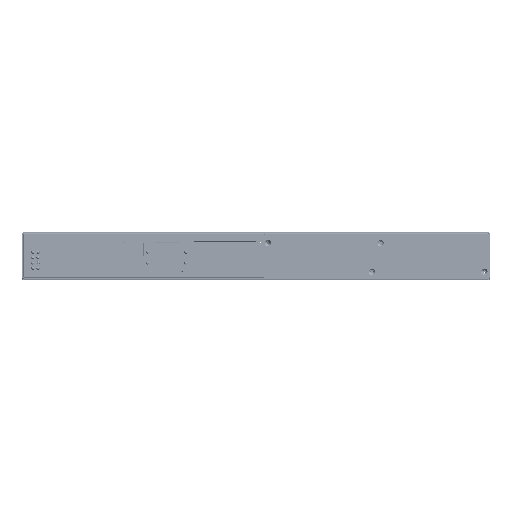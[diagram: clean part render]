
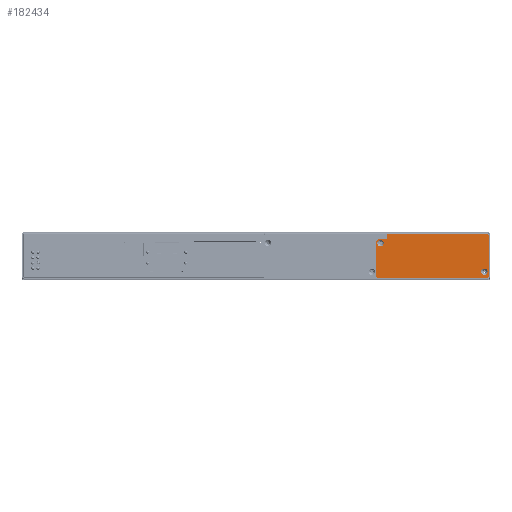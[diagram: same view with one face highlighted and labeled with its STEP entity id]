
A CAD part, top view. The second image highlights one B-rep face of the part: STEP entity #182434.
In plain terms, the highlighted planar face has unit normal (0, 0, 1).
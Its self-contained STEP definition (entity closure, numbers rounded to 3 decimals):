
#182071=DIRECTION('',(0.,1.,0.));
#182072=VECTOR('',#182071,37.8);
#182073=CARTESIAN_POINT('',(218.8,2.,138.8));
#182074=LINE('',#182073,#182072);
#182075=CARTESIAN_POINT('',(216.8,2.,138.8));
#182076=DIRECTION('',(0.,0.,1.));
#182077=DIRECTION('',(0.,-1.,0.));
#182078=AXIS2_PLACEMENT_3D('',#182075,#182076,#182077);
#182080=DIRECTION('',(1.,0.,0.));
#182081=VECTOR('',#182080,101.6);
#182082=CARTESIAN_POINT('',(115.2,0.,138.8));
#182083=LINE('',#182082,#182081);
#182084=CARTESIAN_POINT('',(115.2,2.,138.8));
#182085=DIRECTION('',(0.,0.,1.));
#182086=DIRECTION('',(-1.,0.,0.));
#182087=AXIS2_PLACEMENT_3D('',#182084,#182085,#182086);
#182089=DIRECTION('',(0.,-1.,0.));
#182090=VECTOR('',#182089,32.3);
#182091=CARTESIAN_POINT('',(113.2,34.3,138.8));
#182092=LINE('',#182091,#182090);
#182093=CARTESIAN_POINT('',(115.2,34.3,138.8));
#182094=DIRECTION('',(0.,0.,1.));
#182095=DIRECTION('',(0.,1.,0.));
#182096=AXIS2_PLACEMENT_3D('',#182093,#182094,#182095);
#182098=DIRECTION('',(-1.,0.,0.));
#182099=VECTOR('',#182098,8.);
#182100=CARTESIAN_POINT('',(123.2,36.3,138.8));
#182101=LINE('',#182100,#182099);
#182102=DIRECTION('',(0.,-1.,0.));
#182103=VECTOR('',#182102,3.5);
#182104=CARTESIAN_POINT('',(123.2,39.8,138.8));
#182105=LINE('',#182104,#182103);
#182106=CARTESIAN_POINT('',(125.2,39.8,138.8));
#182107=DIRECTION('',(0.,0.,1.));
#182108=DIRECTION('',(0.,1.,0.));
#182109=AXIS2_PLACEMENT_3D('',#182106,#182107,#182108);
#182111=DIRECTION('',(-1.,0.,0.));
#182112=VECTOR('',#182111,91.6);
#182113=CARTESIAN_POINT('',(216.8,41.8,138.8));
#182114=LINE('',#182113,#182112);
#182115=CARTESIAN_POINT('',(216.8,39.8,138.8));
#182116=DIRECTION('',(0.,0.,1.));
#182117=DIRECTION('',(1.,0.,0.));
#182118=AXIS2_PLACEMENT_3D('',#182115,#182116,#182117);
#182120=CARTESIAN_POINT('',(214.8,6.,138.8));
#182121=DIRECTION('',(0.,0.,-1.));
#182122=DIRECTION('',(1.,0.,0.));
#182123=AXIS2_PLACEMENT_3D('',#182120,#182121,#182122);
#182125=CARTESIAN_POINT('',(214.8,6.,138.8));
#182126=DIRECTION('',(0.,0.,-1.));
#182127=DIRECTION('',(0.,1.,0.));
#182128=AXIS2_PLACEMENT_3D('',#182125,#182126,#182127);
#182130=CARTESIAN_POINT('',(214.8,6.,138.8));
#182131=DIRECTION('',(0.,0.,-1.));
#182132=DIRECTION('',(-1.,0.,0.));
#182133=AXIS2_PLACEMENT_3D('',#182130,#182131,#182132);
#182135=CARTESIAN_POINT('',(214.8,6.,138.8));
#182136=DIRECTION('',(0.,0.,-1.));
#182137=DIRECTION('',(0.,-1.,0.));
#182138=AXIS2_PLACEMENT_3D('',#182135,#182136,#182137);
#182140=CARTESIAN_POINT('',(117.2,32.8,138.8));
#182141=DIRECTION('',(0.,0.,-1.));
#182142=DIRECTION('',(1.,0.,0.));
#182143=AXIS2_PLACEMENT_3D('',#182140,#182141,#182142);
#182145=CARTESIAN_POINT('',(117.2,32.8,138.8));
#182146=DIRECTION('',(0.,0.,-1.));
#182147=DIRECTION('',(0.,1.,0.));
#182148=AXIS2_PLACEMENT_3D('',#182145,#182146,#182147);
#182150=CARTESIAN_POINT('',(117.2,32.8,138.8));
#182151=DIRECTION('',(0.,0.,-1.));
#182152=DIRECTION('',(-1.,0.,0.));
#182153=AXIS2_PLACEMENT_3D('',#182150,#182151,#182152);
#182155=CARTESIAN_POINT('',(117.2,32.8,138.8));
#182156=DIRECTION('',(0.,0.,-1.));
#182157=DIRECTION('',(0.,-1.,0.));
#182158=AXIS2_PLACEMENT_3D('',#182155,#182156,#182157);
#182309=CARTESIAN_POINT('',(218.8,2.,138.8));
#182310=CARTESIAN_POINT('',(218.8,39.8,138.8));
#182311=VERTEX_POINT('',#182309);
#182312=VERTEX_POINT('',#182310);
#182313=CARTESIAN_POINT('',(216.8,0.,138.8));
#182315=VERTEX_POINT('',#182313);
#182317=CARTESIAN_POINT('',(214.8,3.,138.8));
#182318=CARTESIAN_POINT('',(211.8,6.,138.8));
#182319=VERTEX_POINT('',#182317);
#182320=VERTEX_POINT('',#182318);
#182321=CARTESIAN_POINT('',(217.8,6.,138.8));
#182322=VERTEX_POINT('',#182321);
#182323=CARTESIAN_POINT('',(216.8,41.8,138.8));
#182324=VERTEX_POINT('',#182323);
#182329=CARTESIAN_POINT('',(117.2,29.8,138.8));
#182330=CARTESIAN_POINT('',(114.2,32.8,138.8));
#182331=VERTEX_POINT('',#182329);
#182332=VERTEX_POINT('',#182330);
#182333=CARTESIAN_POINT('',(120.2,32.8,138.8));
#182334=VERTEX_POINT('',#182333);
#182335=CARTESIAN_POINT('',(214.8,9.,138.8));
#182336=VERTEX_POINT('',#182335);
#182337=CARTESIAN_POINT('',(125.2,41.8,138.8));
#182338=VERTEX_POINT('',#182337);
#182339=CARTESIAN_POINT('',(115.2,0.,138.8));
#182340=VERTEX_POINT('',#182339);
#182343=CARTESIAN_POINT('',(117.2,35.8,138.8));
#182344=VERTEX_POINT('',#182343);
#182349=CARTESIAN_POINT('',(123.2,39.8,138.8));
#182350=VERTEX_POINT('',#182349);
#182353=CARTESIAN_POINT('',(113.2,2.,138.8));
#182354=VERTEX_POINT('',#182353);
#182361=CARTESIAN_POINT('',(123.2,36.3,138.8));
#182362=VERTEX_POINT('',#182361);
#182365=CARTESIAN_POINT('',(113.2,34.3,138.8));
#182366=VERTEX_POINT('',#182365);
#182373=CARTESIAN_POINT('',(115.2,36.3,138.8));
#182374=VERTEX_POINT('',#182373);
#182385=CARTESIAN_POINT('',(166.,20.9,138.8));
#182386=DIRECTION('',(0.,0.,1.));
#182387=DIRECTION('',(1.,0.,0.));
#182388=AXIS2_PLACEMENT_3D('',#182385,#182386,#182387);
#182389=PLANE('',#182388);
#182391=ORIENTED_EDGE('',*,*,#182390,.F.);
#182393=ORIENTED_EDGE('',*,*,#182392,.F.);
#182395=ORIENTED_EDGE('',*,*,#182394,.F.);
#182397=ORIENTED_EDGE('',*,*,#182396,.F.);
#182399=ORIENTED_EDGE('',*,*,#182398,.F.);
#182401=ORIENTED_EDGE('',*,*,#182400,.F.);
#182403=ORIENTED_EDGE('',*,*,#182402,.F.);
#182405=ORIENTED_EDGE('',*,*,#182404,.F.);
#182407=ORIENTED_EDGE('',*,*,#182406,.F.);
#182409=ORIENTED_EDGE('',*,*,#182408,.F.);
#182411=ORIENTED_EDGE('',*,*,#182410,.F.);
#182412=EDGE_LOOP('',(#182391,#182393,#182395,#182397,#182399,#182401,#182403,
#182405,#182407,#182409,#182411));
#182413=FACE_OUTER_BOUND('',#182412,.F.);
#182415=ORIENTED_EDGE('',*,*,#182414,.F.);
#182417=ORIENTED_EDGE('',*,*,#182416,.F.);
#182419=ORIENTED_EDGE('',*,*,#182418,.F.);
#182421=ORIENTED_EDGE('',*,*,#182420,.F.);
#182422=EDGE_LOOP('',(#182415,#182417,#182419,#182421));
#182423=FACE_BOUND('',#182422,.F.);
#182425=ORIENTED_EDGE('',*,*,#182424,.F.);
#182427=ORIENTED_EDGE('',*,*,#182426,.F.);
#182429=ORIENTED_EDGE('',*,*,#182428,.F.);
#182431=ORIENTED_EDGE('',*,*,#182430,.F.);
#182432=EDGE_LOOP('',(#182425,#182427,#182429,#182431));
#182433=FACE_BOUND('',#182432,.F.);
#182434=ADVANCED_FACE('',(#182413,#182423,#182433),#182389,.T.);
#182079=CIRCLE('',#182078,2.);
#182088=CIRCLE('',#182087,2.);
#182097=CIRCLE('',#182096,2.);
#182110=CIRCLE('',#182109,2.);
#182119=CIRCLE('',#182118,2.);
#182124=CIRCLE('',#182123,3.);
#182129=CIRCLE('',#182128,3.);
#182134=CIRCLE('',#182133,3.);
#182139=CIRCLE('',#182138,3.);
#182144=CIRCLE('',#182143,3.);
#182149=CIRCLE('',#182148,3.);
#182154=CIRCLE('',#182153,3.);
#182159=CIRCLE('',#182158,3.);
#182390=EDGE_CURVE('',#182311,#182312,#182074,.T.);
#182392=EDGE_CURVE('',#182315,#182311,#182079,.T.);
#182394=EDGE_CURVE('',#182340,#182315,#182083,.T.);
#182396=EDGE_CURVE('',#182354,#182340,#182088,.T.);
#182398=EDGE_CURVE('',#182366,#182354,#182092,.T.);
#182400=EDGE_CURVE('',#182374,#182366,#182097,.T.);
#182402=EDGE_CURVE('',#182362,#182374,#182101,.T.);
#182404=EDGE_CURVE('',#182350,#182362,#182105,.T.);
#182406=EDGE_CURVE('',#182338,#182350,#182110,.T.);
#182408=EDGE_CURVE('',#182324,#182338,#182114,.T.);
#182410=EDGE_CURVE('',#182312,#182324,#182119,.T.);
#182414=EDGE_CURVE('',#182322,#182319,#182124,.T.);
#182416=EDGE_CURVE('',#182336,#182322,#182129,.T.);
#182418=EDGE_CURVE('',#182320,#182336,#182134,.T.);
#182420=EDGE_CURVE('',#182319,#182320,#182139,.T.);
#182424=EDGE_CURVE('',#182334,#182331,#182144,.T.);
#182426=EDGE_CURVE('',#182344,#182334,#182149,.T.);
#182428=EDGE_CURVE('',#182332,#182344,#182154,.T.);
#182430=EDGE_CURVE('',#182331,#182332,#182159,.T.);
